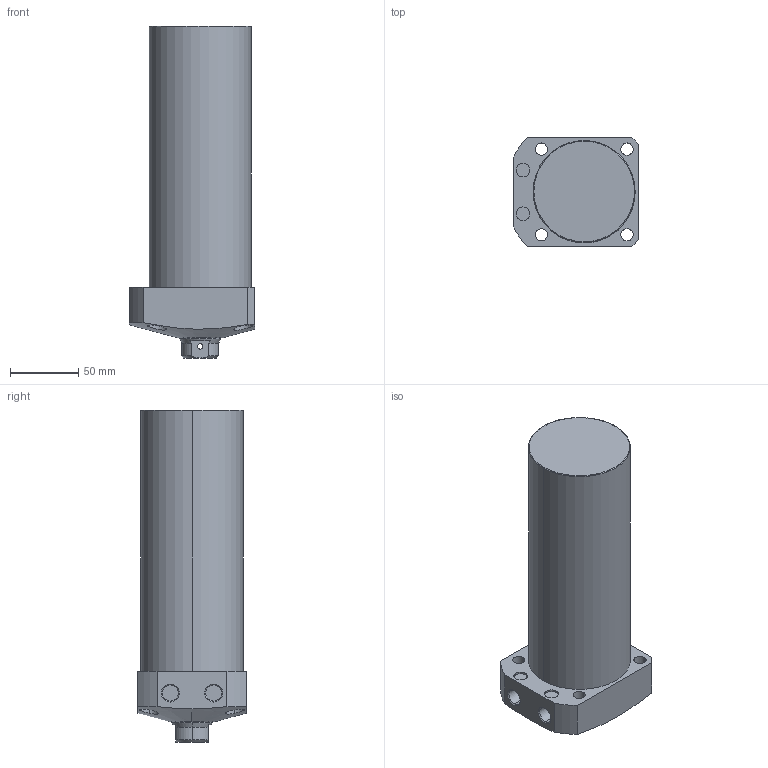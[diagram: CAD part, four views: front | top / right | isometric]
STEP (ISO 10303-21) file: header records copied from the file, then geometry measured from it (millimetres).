
FILE_DESCRIPTION (( 'STEP AP203' ), '1' );
FILE_NAME ('CLL-075CB-155.STEP', '2019-12-24T00:26:52', ( '' ), ( '' ), 'SwSTEP 2.0', 'SolidWorks 2015', '' );
FILE_SCHEMA (( 'CONFIG_CONTROL_DESIGN' ));
Length unit declared in the file: millimetre
Products named in the file (1): CLL-075CB-155
Bounding box: 92 x 80 x 244 mm (x, y, z)
Volume: 1067160.5 mm3; surface area: 77652.1 mm2
Topology: 1 solids, 1 shells, 78 faces, 183 edges, 116 vertices
Faces by surface type: cylinder 39, plane 22, cone 15, torus 2
Entity records: 2862 total; most frequent: CARTESIAN_POINT 955, DIRECTION 396, ORIENTED_EDGE 362, EDGE_CURVE 181, AXIS2_PLACEMENT_3D 164, VERTEX_POINT 116, EDGE_LOOP 101, CIRCLE 85
